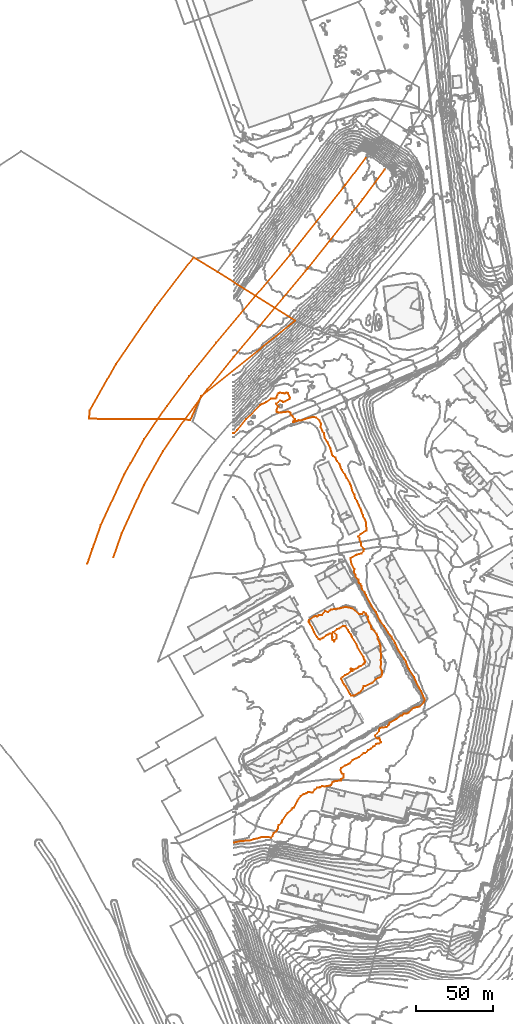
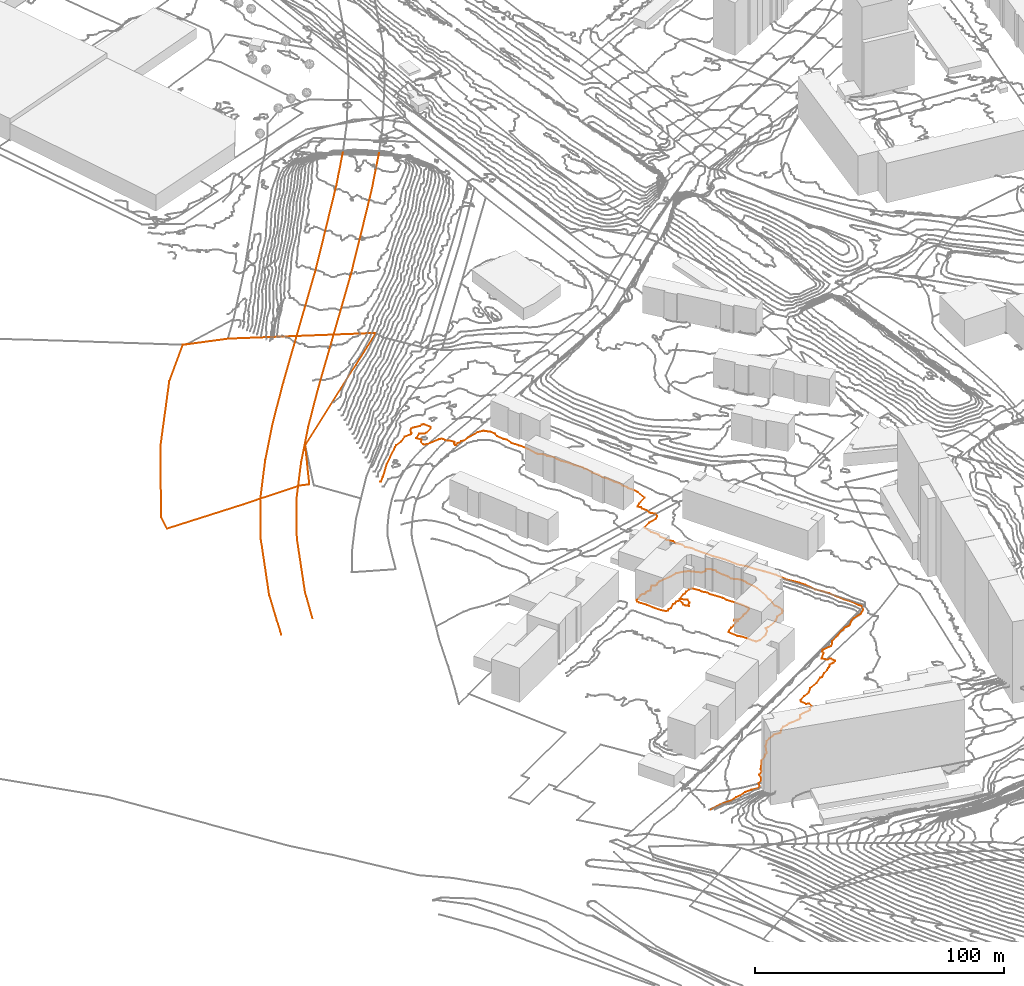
# Not in any storey, part 136 of 419: 5 proxies.
"""IFC2X3 model written with IfcOpenShell, lengths in metres."""

from ifc_helpers import new_model, entity, si_unit, frame, origin_with_axes, place, context, subcontext, project, element, save


model = new_model("IFC2X3")

# Units and contexts
model_context = context("Model", 3, precision=1e-05, world=origin_with_axes())
body_context = subcontext(model_context, "Body", "Model", "MODEL_VIEW")
ifc_project = project(units=[si_unit("AREAUNIT", "SQUARE_METRE"), si_unit("LENGTHUNIT", "METRE")], contexts=[model_context])

# Proxies
proxy_1_placement = place(None, frame((-78.0079795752, 547.3976909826, 20.8), z_axis=(0.0, 0.0, 1.0), x_axis=(1.0, 0.0, 0.0)))
element("IfcBuildingElementProxy", 1, at=proxy_1_placement, Name="Route 38", ObjectType="NOTDEFINED", context=body_context, shape_type="GeometricCurveSet", body=[
    entity("IfcGeometricCurveSet", [entity("IfcPolyline", [entity("IfcCartesianPoint", [0.0, 0.0, 0.0]), entity("IfcCartesianPoint", [5.4, 15.4000000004, 1.9]), entity("IfcCartesianPoint", [19.7999999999, 46.9000000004, 4.1]), entity("IfcCartesianPoint", [32.2, 68.7999999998, 5.2]), entity("IfcCartesianPoint", [46.5, 89.7000000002, 6.2]), entity("IfcCartesianPoint", [60.6, 108.5, 7.0]), entity("IfcCartesianPoint", [77.9, 129.7999999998, 8.4]), entity("IfcCartesianPoint", [124.7, 185.7000000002, 11.4]), entity("IfcCartesianPoint", [125.7999999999, 187.0, 11.5]), entity("IfcCartesianPoint", [154.7999999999, 223.5, 13.3]), entity("IfcCartesianPoint", [161.6, 232.0999999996, 13.8]), entity("IfcCartesianPoint", [175.7, 251.0, 14.5])])]),
])
proxy_2_placement = place(None, frame((-94.8079795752, 543.3976909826, 21.3), z_axis=(0.0, 0.0, 1.0), x_axis=(1.0, 0.0, 0.0)))
element("IfcBuildingElementProxy", 2, at=proxy_2_placement, Name="Route 329", ObjectType="NOTDEFINED", context=body_context, shape_type="GeometricCurveSet", body=[
    entity("IfcGeometricCurveSet", [entity("IfcPolyline", [entity("IfcCartesianPoint", [180.6, 263.2999999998, 14.0]), entity("IfcCartesianPoint", [167.0, 245.0, 13.3]), entity("IfcCartesianPoint", [131.4, 200.2000000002, 11.0]), entity("IfcCartesianPoint", [83.5, 143.0, 7.9]), entity("IfcCartesianPoint", [66.0, 121.4000000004, 6.5]), entity("IfcCartesianPoint", [51.5, 102.0999999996, 5.7]), entity("IfcCartesianPoint", [36.8, 80.5999999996, 4.7]), entity("IfcCartesianPoint", [28.1, 65.2000000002, 3.9]), entity("IfcCartesianPoint", [23.8, 57.7000000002, 3.6]), entity("IfcCartesianPoint", [8.7000000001, 24.7999999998, 1.4]), entity("IfcCartesianPoint", [4.0, 11.5, 0.7]), entity("IfcCartesianPoint", [3.2000000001, 9.2000000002, 0.5]), entity("IfcCartesianPoint", [0.8, 2.2000000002, 0.1]), entity("IfcCartesianPoint", [0.0, 0.0, 0.0])])]),
])
proxy_3_placement = place(None, frame((-93.6479795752, 637.1576909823, 16.0131996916), z_axis=(0.0, 0.0, 1.0), x_axis=(1.0, 0.0, 0.0)))
element("IfcBuildingElementProxy", 3, at=proxy_3_placement, Name="Cadastre 326", ObjectType="NOTDEFINED", context=body_context, shape_type="GeometricCurveSet", body=[
    entity("IfcGeometricCurveSet", [entity("IfcPolyline", [entity("IfcCartesianPoint", [68.98, 103.6699999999, 3.3449003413]), entity("IfcCartesianPoint", [83.0600000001, 95.0500000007, 6.3990003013]), entity("IfcCartesianPoint", [133.46, 63.54, 10.6771397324]), entity("IfcCartesianPoint", [72.51, 14.6200000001, 6.6850000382]), entity("IfcCartesianPoint", [65.39, -1.0, -0.560399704]), entity("IfcCartesianPoint", [61.51, -0.3499999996, -0.199499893]), entity("IfcCartesianPoint", [34.96, -0.3300000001, -0.1880998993]), entity("IfcCartesianPoint", [0.0, 0.0, 0.0]), entity("IfcCartesianPoint", [0.3200000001, 5.3700000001, 2.2401010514]), entity("IfcCartesianPoint", [17.37, 35.4700000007, 12.5860002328]), entity("IfcCartesianPoint", [42.63, 72.0900000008, 13.7222999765]), entity("IfcCartesianPoint", [67.61, 104.5100000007, 3.0731005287]), entity("IfcCartesianPoint", [68.98, 103.6699999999, 3.3449003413])])]),
])
proxy_4_placement = place(None, frame((48.5920185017, 505.8976909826, 10.0), z_axis=(0.0, 0.0, 1.0), x_axis=(1.0, 0.0, 0.0)))
element("IfcBuildingElementProxy", 4, at=proxy_4_placement, Name="Contour 10.0 m", ObjectType="NOTDEFINED", context=body_context, shape_type="GeometricCurveSet", body=[
    entity("IfcGeometricCurveSet", [entity("IfcPolyline", [entity("IfcCartesianPoint", [29.2999981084, -48.0, 0.0]), entity("IfcCartesianPoint", [27.5000019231, -48.0400009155, 0.0]), entity("IfcCartesianPoint", [26.6818208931, -47.0, 0.0]), entity("IfcCartesianPoint", [23.9814830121, -42.0, 0.0]), entity("IfcCartesianPoint", [22.8650810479, -41.0, 0.0]), entity("IfcCartesianPoint", [21.0714308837, -37.0, 0.0]), entity("IfcCartesianPoint", [21.7916675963, -36.0, 0.0]), entity("IfcCartesianPoint", [23.5000019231, -34.7333329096, 0.0]), entity("IfcCartesianPoint", [25.0454572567, -34.0, 0.0]), entity("IfcCartesianPoint", [27.5000019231, -32.1874985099, 0.0]), entity("IfcCartesianPoint", [28.2499959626, -32.0, 0.0]), entity("IfcCartesianPoint", [26.9999519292, -31.0, 0.0]), entity("IfcCartesianPoint", [27.5000019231, -30.4999500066, 0.0]), entity("IfcCartesianPoint", [28.5000519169, -31.0, 0.0]), entity("IfcCartesianPoint", [29.5000019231, -31.1052652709, 0.0]), entity("IfcCartesianPoint", [31.8333352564, -30.0, 0.0]), entity("IfcCartesianPoint", [32.5000019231, -29.2727256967, 0.0]), entity("IfcCartesianPoint", [33.5833372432, -29.0, 0.0]), entity("IfcCartesianPoint", [35.5000019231, -27.6250029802, 0.0]), entity("IfcCartesianPoint", [36.2142837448, -27.0, 0.0]), entity("IfcCartesianPoint", [36.6000038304, -26.0, 0.0]), entity("IfcCartesianPoint", [35.9999947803, -25.0, 0.0]), entity("IfcCartesianPoint", [35.5000019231, -23.1250029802, 0.0]), entity("IfcCartesianPoint", [31.7537333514, -17.0, 0.0]), entity("IfcCartesianPoint", [31.1000025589, -15.0, 0.0]), entity("IfcCartesianPoint", [27.9074088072, -10.0, 0.0]), entity("IfcCartesianPoint", [27.5000019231, -8.5714279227, 0.0]), entity("IfcCartesianPoint", [26.0263182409, -7.0, 0.0]), entity("IfcCartesianPoint", [25.5000019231, -5.5000050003, 0.0]), entity("IfcCartesianPoint", [23.5000019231, -2.8571428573, 0.0]), entity("IfcCartesianPoint", [22.2999981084, -3.0, 0.0]), entity("IfcCartesianPoint", [20.5000019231, -3.8500011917, 0.0]), entity("IfcCartesianPoint", [19.5000019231, -4.6874985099, 0.0]), entity("IfcCartesianPoint", [18.5000019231, -4.8571428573, 0.0]), entity("IfcCartesianPoint", [15.7500078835, -7.0, 0.0]), entity("IfcCartesianPoint", [18.1666632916, -9.0, 0.0]), entity("IfcCartesianPoint", [17.9285714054, -11.0, 0.0]), entity("IfcCartesianPoint", [16.8333352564, -12.0, 0.0]), entity("IfcCartesianPoint", [16.5000019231, -13.0000999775, 0.0]), entity("IfcCartesianPoint", [15.4999019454, -12.0, 0.0]), entity("IfcCartesianPoint", [14.9999519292, -11.0, 0.0]), entity("IfcCartesianPoint", [15.2999981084, -10.0, 0.0]), entity("IfcCartesianPoint", [15.0999942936, -8.0, 0.0]), entity("IfcCartesianPoint", [14.5000019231, -7.7500019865, 0.0]), entity("IfcCartesianPoint", [13.5000019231, -7.84210632, 0.0]), entity("IfcCartesianPoint", [12.5000019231, -8.6250029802, 0.0]), entity("IfcCartesianPoint", [11.5000019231, -8.8181822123, 0.0]), entity("IfcCartesianPoint", [9.5000019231, -10.5999923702, 0.0]), entity("IfcCartesianPoint", [8.2499989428, -11.0, 0.0]), entity("IfcCartesianPoint", [7.5000019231, -11.6666701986, 0.0]), entity("IfcCartesianPoint", [6.5000019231, -11.3846165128, 0.0]), entity("IfcCartesianPoint", [5.3571418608, -10.0, 0.0]), entity("IfcCartesianPoint", [3.5222246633, -7.0, 0.0]), entity("IfcCartesianPoint", [2.2878815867, -4.0, 0.0]), entity("IfcCartesianPoint", [0.3823550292, -1.0, 0.0]), entity("IfcCartesianPoint", [0.0, 0.0, 0.0]), entity("IfcCartesianPoint", [0.2666690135, 1.0, 0.0]), entity("IfcCartesianPoint", [3.5000019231, 3.2424240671, 0.0]), entity("IfcCartesianPoint", [4.5000019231, 3.5294124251, 0.0]), entity("IfcCartesianPoint", [5.5000019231, 3.1250022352, 0.0]), entity("IfcCartesianPoint", [6.5000019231, 4.0000066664, 0.0]), entity("IfcCartesianPoint", [7.5000019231, 4.2727256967, 0.0]), entity("IfcCartesianPoint", [8.5000019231, 4.1111134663, 0.0]), entity("IfcCartesianPoint", [10.5000019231, 6.7499970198, 0.0]), entity("IfcCartesianPoint", [12.5000019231, 6.0000124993, 0.0]), entity("IfcCartesianPoint", [13.5000019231, 7.1428590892, 0.0]), entity("IfcCartesianPoint", [14.5000019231, 7.7000009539, 0.0]), entity("IfcCartesianPoint", [20.5000019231, 8.5000099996, 0.0]), entity("IfcCartesianPoint", [23.5000019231, 9.2999990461, 0.0]), entity("IfcCartesianPoint", [26.0000519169, 9.0, 0.0]), entity("IfcCartesianPoint", [28.5000019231, 8.2222269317, 0.0]), entity("IfcCartesianPoint", [32.5000019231, 4.7142818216, 0.0]), entity("IfcCartesianPoint", [34.5000019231, 4.8333306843, 0.0]), entity("IfcCartesianPoint", [35.5000019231, 6.0000999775, 0.0]), entity("IfcCartesianPoint", [37.0000519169, 5.0, 0.0]), entity("IfcCartesianPoint", [37.3749989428, 4.0, 0.0]), entity("IfcCartesianPoint", [38.4230771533, 3.0, 0.0]), entity("IfcCartesianPoint", [38.1666685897, 2.0, 0.0]), entity("IfcCartesianPoint", [39.2499989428, -1.0, 0.0]), entity("IfcCartesianPoint", [40.3888884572, -3.0, 0.0]), entity("IfcCartesianPoint", [40.7000057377, -5.0, 0.0]), entity("IfcCartesianPoint", [42.5000019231, -6.2857181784, 0.0]), entity("IfcCartesianPoint", [44.0882391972, -8.0, 0.0]), entity("IfcCartesianPoint", [44.2307715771, -9.0, 0.0]), entity("IfcCartesianPoint", [44.8125034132, -10.0, 0.0]), entity("IfcCartesianPoint", [44.7000057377, -11.0, 0.0]), entity("IfcCartesianPoint", [46.0000102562, -14.0, 0.0]), entity("IfcCartesianPoint", [46.428571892, -16.0, 0.0]), entity("IfcCartesianPoint", [46.8571452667, -23.0, 0.0]), entity("IfcCartesianPoint", [46.6111153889, -25.0, 0.0]), entity("IfcCartesianPoint", [46.9444451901, -26.0, 0.0]), entity("IfcCartesianPoint", [46.5000144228, -30.0, 0.0]), entity("IfcCartesianPoint", [47.3888884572, -32.0, 0.0]), entity("IfcCartesianPoint", [47.5000057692, -34.0, 0.0]), entity("IfcCartesianPoint", [47.1428585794, -35.0, 0.0]), entity("IfcCartesianPoint", [46.5000019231, -36.0000099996, 0.0]), entity("IfcCartesianPoint", [43.5000019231, -37.2000038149, 0.0]), entity("IfcCartesianPoint", [41.5000019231, -39.5000124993, 0.0]), entity("IfcCartesianPoint", [36.5000019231, -41.8749970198, 0.0]), entity("IfcCartesianPoint", [35.5000019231, -41.8333306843, 0.0]), entity("IfcCartesianPoint", [34.8636390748, -44.0, 0.0]), entity("IfcCartesianPoint", [32.9615432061, -46.0, 0.0]), entity("IfcCartesianPoint", [29.2999981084, -48.0, 0.0])])]),
])
proxy_5_placement = place(None, frame((-0.4079795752, 362.6060243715, 12.0), z_axis=(0.0, 0.0, 1.0), x_axis=(1.0, 0.0, 0.0)))
element("IfcBuildingElementProxy", 5, at=proxy_5_placement, Name="Contour 12.0 m", ObjectType="NOTDEFINED", context=body_context, shape_type="GeometricCurveSet", body=[
    entity("IfcGeometricCurveSet", [entity("IfcPolyline", [entity("IfcCartesianPoint", [0.0, 0.0, 0.0]), entity("IfcCartesianPoint", [5.5, 1.1605191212, 0.0]), entity("IfcCartesianPoint", [10.5, 1.2741223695, 0.0]), entity("IfcCartesianPoint", [13.5, 2.3554959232, 0.0]), entity("IfcCartesianPoint", [15.5, 2.6570507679, 0.0]), entity("IfcCartesianPoint", [18.5, 3.6488084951, 0.0]), entity("IfcCartesianPoint", [21.5, 3.7462110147, 0.0]), entity("IfcCartesianPoint", [24.5, 3.2916832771, 0.0]), entity("IfcCartesianPoint", [25.499983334, 4.2916666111, 0.0]), entity("IfcCartesianPoint", [26.2142818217, 6.2916666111, 0.0]), entity("IfcCartesianPoint", [27.9285694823, 7.2916666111, 0.0]), entity("IfcCartesianPoint", [28.5, 8.0916627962, 0.0]), entity("IfcCartesianPoint", [29.0714305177, 9.2916666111, 0.0]), entity("IfcCartesianPoint", [29.3571409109, 11.2916666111, 0.0]), entity("IfcCartesianPoint", [31.5, 12.9583368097, 0.0]), entity("IfcCartesianPoint", [31.8749970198, 14.2916666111, 0.0]), entity("IfcCartesianPoint", [35.2142818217, 19.2916666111, 0.0]), entity("IfcCartesianPoint", [37.7500059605, 21.2916666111, 0.0]), entity("IfcCartesianPoint", [38.5, 22.2916757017, 0.0]), entity("IfcCartesianPoint", [39.5, 22.7917166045, 0.0]), entity("IfcCartesianPoint", [41.6428590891, 27.2916666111, 0.0]), entity("IfcCartesianPoint", [43.8636371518, 30.2916666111, 0.0]), entity("IfcCartesianPoint", [45.5, 31.3630966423, 0.0]), entity("IfcCartesianPoint", [47.5, 31.9758758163, 0.0]), entity("IfcCartesianPoint", [48.5, 32.8210790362, 0.0]), entity("IfcCartesianPoint", [51.5, 32.4734879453, 0.0]), entity("IfcCartesianPoint", [52.8636371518, 34.2916666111, 0.0]), entity("IfcCartesianPoint", [54.5, 35.5509252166, 0.0]), entity("IfcCartesianPoint", [56.5, 35.8916589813, 0.0]), entity("IfcCartesianPoint", [57.5, 36.5416646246, 0.0]), entity("IfcCartesianPoint", [59.5, 36.4583359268, 0.0]), entity("IfcCartesianPoint", [62.5, 36.928029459, 0.0]), entity("IfcCartesianPoint", [63.4999750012, 37.2916666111, 0.0]), entity("IfcCartesianPoint", [64.5, 39.3583345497, 0.0]), entity("IfcCartesianPoint", [66.5, 39.8916685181, 0.0]), entity("IfcCartesianPoint", [69.8333333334, 40.2916666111, 0.0]), entity("IfcCartesianPoint", [69.9999500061, 41.2916666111, 0.0]), entity("IfcCartesianPoint", [71.7000038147, 42.2916666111, 0.0]), entity("IfcCartesianPoint", [71.7000038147, 44.2916666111, 0.0]), entity("IfcCartesianPoint", [70.5, 44.8916589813, 0.0]), entity("IfcCartesianPoint", [69.5, 47.1488075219, 0.0]), entity("IfcCartesianPoint", [69.9000076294, 48.2916666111, 0.0]), entity("IfcCartesianPoint", [72.5, 50.0059532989, 0.0]), entity("IfcCartesianPoint", [75.5, 51.2916743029, 0.0]), entity("IfcCartesianPoint", [77.5, 53.5993583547, 0.0]), entity("IfcCartesianPoint", [81.5, 55.5059513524, 0.0]), entity("IfcCartesianPoint", [84.5, 57.8916589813, 0.0]), entity("IfcCartesianPoint", [85.5, 57.9070500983, 0.0]), entity("IfcCartesianPoint", [87.5, 59.9345232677, 0.0]), entity("IfcCartesianPoint", [89.5, 61.0416606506, 0.0]), entity("IfcCartesianPoint", [90.7222269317, 62.2916666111, 0.0]), entity("IfcCartesianPoint", [91.5, 62.6098480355, 0.0]), entity("IfcCartesianPoint", [92.5, 63.8472233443, 0.0]), entity("IfcCartesianPoint", [93.5, 64.2917166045, 0.0]), entity("IfcCartesianPoint", [94.5, 64.2916777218, 0.0]), entity("IfcCartesianPoint", [95.5, 64.8630971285, 0.0]), entity("IfcCartesianPoint", [95.7999990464, 65.2916666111, 0.0]), entity("IfcCartesianPoint", [95.1666666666, 66.2916666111, 0.0]), entity("IfcCartesianPoint", [94.9999750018, 67.2916666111, 0.0]), entity("IfcCartesianPoint", [94.5, 67.6916742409, 0.0]), entity("IfcCartesianPoint", [93.5, 67.29163328, 0.0]), entity("IfcCartesianPoint", [91.8333386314, 69.2916666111, 0.0]), entity("IfcCartesianPoint", [94.4333318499, 72.2916666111, 0.0]), entity("IfcCartesianPoint", [94.412500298, 73.2916666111, 0.0]), entity("IfcCartesianPoint", [95.2692305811, 74.2916666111, 0.0]), entity("IfcCartesianPoint", [99.5, 74.9953700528, 0.0]), entity("IfcCartesianPoint", [100.705881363, 76.2916666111, 0.0]), entity("IfcCartesianPoint", [101.5, 77.7323448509, 0.0]), entity("IfcCartesianPoint", [105.5, 80.0109649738, 0.0]), entity("IfcCartesianPoint", [108.367470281, 82.2916666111, 0.0]), entity("IfcCartesianPoint", [109.5, 82.3158599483, 0.0]), entity("IfcCartesianPoint", [110.5, 83.5006216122, 0.0]), entity("IfcCartesianPoint", [112.5, 83.588696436, 0.0]), entity("IfcCartesianPoint", [113.5, 84.1121799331, 0.0]), entity("IfcCartesianPoint", [115.5121953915, 86.2916666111, 0.0]), entity("IfcCartesianPoint", [116.9687500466, 87.2916666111, 0.0]), entity("IfcCartesianPoint", [120.9150943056, 88.2916666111, 0.0]), entity("IfcCartesianPoint", [123.5, 90.6829713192, 0.0]), entity("IfcCartesianPoint", [124.1615383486, 93.2916666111, 0.0]), entity("IfcCartesianPoint", [123.5, 94.0204804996, 0.0]), entity("IfcCartesianPoint", [121.7873563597, 98.2916666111, 0.0]), entity("IfcCartesianPoint", [120.4444445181, 100.2916666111, 0.0]), entity("IfcCartesianPoint", [118.5, 104.216667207, 0.0]), entity("IfcCartesianPoint", [117.3028164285, 107.2916666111, 0.0]), entity("IfcCartesianPoint", [113.8442625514, 112.2916666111, 0.0]), entity("IfcCartesianPoint", [111.9189190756, 117.2916666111, 0.0]), entity("IfcCartesianPoint", [110.8278687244, 119.2916666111, 0.0]), entity("IfcCartesianPoint", [107.2160497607, 124.2916666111, 0.0]), entity("IfcCartesianPoint", [105.0692309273, 129.2916666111, 0.0]), entity("IfcCartesianPoint", [102.5, 133.5059532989, 0.0]), entity("IfcCartesianPoint", [100.5, 136.1378195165, 0.0]), entity("IfcCartesianPoint", [97.9428572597, 140.2916666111, 0.0]), entity("IfcCartesianPoint", [95.5, 143.1183331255, 0.0]), entity("IfcCartesianPoint", [92.5405401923, 149.2916666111, 0.0]), entity("IfcCartesianPoint", [89.7970298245, 153.2916666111, 0.0]), entity("IfcCartesianPoint", [85.9761903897, 160.2916666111, 0.0]), entity("IfcCartesianPoint", [85.2669904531, 162.2916666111, 0.0]), entity("IfcCartesianPoint", [83.4035090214, 164.2916666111, 0.0]), entity("IfcCartesianPoint", [83.1250002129, 166.2916666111, 0.0]), entity("IfcCartesianPoint", [82.5, 167.3541681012, 0.0]), entity("IfcCartesianPoint", [81.4519996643, 168.2916666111, 0.0]), entity("IfcCartesianPoint", [81.1666666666, 170.2916666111, 0.0]), entity("IfcCartesianPoint", [79.4578947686, 172.2916666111, 0.0]), entity("IfcCartesianPoint", [79.4302330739, 173.2916666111, 0.0]), entity("IfcCartesianPoint", [78.3571409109, 175.2916666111, 0.0]), entity("IfcCartesianPoint", [78.5416676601, 177.2916666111, 0.0]), entity("IfcCartesianPoint", [76.7799987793, 180.2916666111, 0.0]), entity("IfcCartesianPoint", [75.9999875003, 184.2916666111, 0.0]), entity("IfcCartesianPoint", [79.5, 186.420698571, 0.0]), entity("IfcCartesianPoint", [83.0714305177, 187.2916666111, 0.0]), entity("IfcCartesianPoint", [84.5, 188.7916916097, 0.0]), entity("IfcCartesianPoint", [84.8333333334, 190.2916666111, 0.0]), entity("IfcCartesianPoint", [82.9545446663, 192.2916666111, 0.0]), entity("IfcCartesianPoint", [82.8333298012, 194.2916666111, 0.0]), entity("IfcCartesianPoint", [81.8636371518, 196.2916666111, 0.0]), entity("IfcCartesianPoint", [81.9999944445, 197.2916666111, 0.0]), entity("IfcCartesianPoint", [80.8999980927, 198.2916666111, 0.0]), entity("IfcCartesianPoint", [82.5, 199.8916685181, 0.0]), entity("IfcCartesianPoint", [86.499983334, 202.2916666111, 0.0]), entity("IfcCartesianPoint", [86.0555567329, 207.2916666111, 0.0]), entity("IfcCartesianPoint", [85.5, 209.2916416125, 0.0]), entity("IfcCartesianPoint", [84.1666613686, 211.2916666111, 0.0]), entity("IfcCartesianPoint", [84.0714305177, 212.2916666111, 0.0]), entity("IfcCartesianPoint", [83.1250029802, 214.2916666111, 0.0]), entity("IfcCartesianPoint", [82.6818213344, 216.2916666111, 0.0]), entity("IfcCartesianPoint", [81.4999857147, 218.2916666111, 0.0]), entity("IfcCartesianPoint", [80.3749970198, 221.2916666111, 0.0]), entity("IfcCartesianPoint", [78.9999900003, 223.2916666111, 0.0]), entity("IfcCartesianPoint", [78.6333358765, 225.2916666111, 0.0]), entity("IfcCartesianPoint", [77.0555567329, 228.2916666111, 0.0]), entity("IfcCartesianPoint", [76.3749970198, 231.2916666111, 0.0]), entity("IfcCartesianPoint", [75.7352937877, 232.2916666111, 0.0]), entity("IfcCartesianPoint", [75.5434791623, 233.2916666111, 0.0]), entity("IfcCartesianPoint", [73.4999923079, 236.2916666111, 0.0]), entity("IfcCartesianPoint", [72.61538391, 238.2916666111, 0.0]), entity("IfcCartesianPoint", [70.4999923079, 241.2916666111, 0.0]), entity("IfcCartesianPoint", [69.5588248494, 243.2916666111, 0.0]), entity("IfcCartesianPoint", [69.0625014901, 245.2916666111, 0.0]), entity("IfcCartesianPoint", [67.2142866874, 247.2916666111, 0.0]), entity("IfcCartesianPoint", [66.3888865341, 249.2916666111, 0.0]), entity("IfcCartesianPoint", [64.7758618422, 250.2916666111, 0.0]), entity("IfcCartesianPoint", [64.1470565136, 251.2916666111, 0.0]), entity("IfcCartesianPoint", [63.1086958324, 255.2916666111, 0.0]), entity("IfcCartesianPoint", [61.2428569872, 259.2916666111, 0.0]), entity("IfcCartesianPoint", [59.3461529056, 262.2916666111, 0.0]), entity("IfcCartesianPoint", [58.8548382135, 265.2916666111, 0.0]), entity("IfcCartesianPoint", [58.0555555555, 266.2916666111, 0.0]), entity("IfcCartesianPoint", [56.6764717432, 269.2916666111, 0.0]), entity("IfcCartesianPoint", [56.9999954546, 271.2916666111, 0.0]), entity("IfcCartesianPoint", [55.9444432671, 273.2916666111, 0.0]), entity("IfcCartesianPoint", [53.8750007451, 275.2916666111, 0.0]), entity("IfcCartesianPoint", [51.5, 275.6612319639, 0.0]), entity("IfcCartesianPoint", [46.5, 274.3749999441, 0.0]), entity("IfcCartesianPoint", [43.5, 273.2495613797, 0.0]), entity("IfcCartesianPoint", [42.5, 273.6249999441, 0.0]), entity("IfcCartesianPoint", [41.5, 272.9897799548, 0.0]), entity("IfcCartesianPoint", [40.5, 272.9583332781, 0.0]), entity("IfcCartesianPoint", [39.6111134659, 272.2916666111, 0.0]), entity("IfcCartesianPoint", [38.9999750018, 272.2916666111, 0.0]), entity("IfcCartesianPoint", [39.1874985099, 273.2916666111, 0.0]), entity("IfcCartesianPoint", [40.0384587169, 274.2916666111, 0.0]), entity("IfcCartesianPoint", [38.5, 276.2916523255, 0.0]), entity("IfcCartesianPoint", [37.1666666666, 277.2916666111, 0.0]), entity("IfcCartesianPoint", [37.0999923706, 278.2916666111, 0.0]), entity("IfcCartesianPoint", [36.5, 278.8916589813, 0.0]), entity("IfcCartesianPoint", [35.5, 279.1666636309, 0.0]), entity("IfcCartesianPoint", [29.5, 278.4345257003, 0.0]), entity("IfcCartesianPoint", [28.5, 279.0059484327, 0.0]), entity("IfcCartesianPoint", [28.2142818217, 279.2916666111, 0.0]), entity("IfcCartesianPoint", [28.3529406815, 281.2916666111, 0.0]), entity("IfcCartesianPoint", [29.3333333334, 282.2916666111, 0.0]), entity("IfcCartesianPoint", [27.8125014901, 284.2916666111, 0.0]), entity("IfcCartesianPoint", [30.5, 286.4116674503, 0.0]), entity("IfcCartesianPoint", [32.5, 285.4967944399, 0.0]), entity("IfcCartesianPoint", [33.5, 285.7532054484, 0.0]), entity("IfcCartesianPoint", [36.5, 287.4027800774, 0.0]), entity("IfcCartesianPoint", [36.8076923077, 288.2916666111, 0.0]), entity("IfcCartesianPoint", [35.4999875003, 291.2916666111, 0.0]), entity("IfcCartesianPoint", [34.5, 291.4093135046, 0.0]), entity("IfcCartesianPoint", [33.5, 290.9488092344, 0.0]), entity("IfcCartesianPoint", [30.5, 291.3942305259, 0.0]), entity("IfcCartesianPoint", [29.5, 291.2291653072, 0.0]), entity("IfcCartesianPoint", [28.6666675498, 290.2916666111, 0.0]), entity("IfcCartesianPoint", [28.0263163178, 288.2916666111, 0.0]), entity("IfcCartesianPoint", [27.5, 287.7361098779, 0.0]), entity("IfcCartesianPoint", [24.5, 287.5946981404, 0.0]), entity("IfcCartesianPoint", [21.5000066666, 285.2916666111, 0.0]), entity("IfcCartesianPoint", [18.5, 283.9861117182, 0.0]), entity("IfcCartesianPoint", [17.5, 283.2604159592, 0.0]), entity("IfcCartesianPoint", [8.3918919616, 274.2916666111, 0.0]), entity("IfcCartesianPoint", [2.5833333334, 267.2916666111, 0.0]), entity("IfcCartesianPoint", [0.5, 265.1488090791, 0.0]), entity("IfcCartesianPoint", [0.0, 265.1488090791, 0.0])])]),
])

save(model, "model.ifc")
